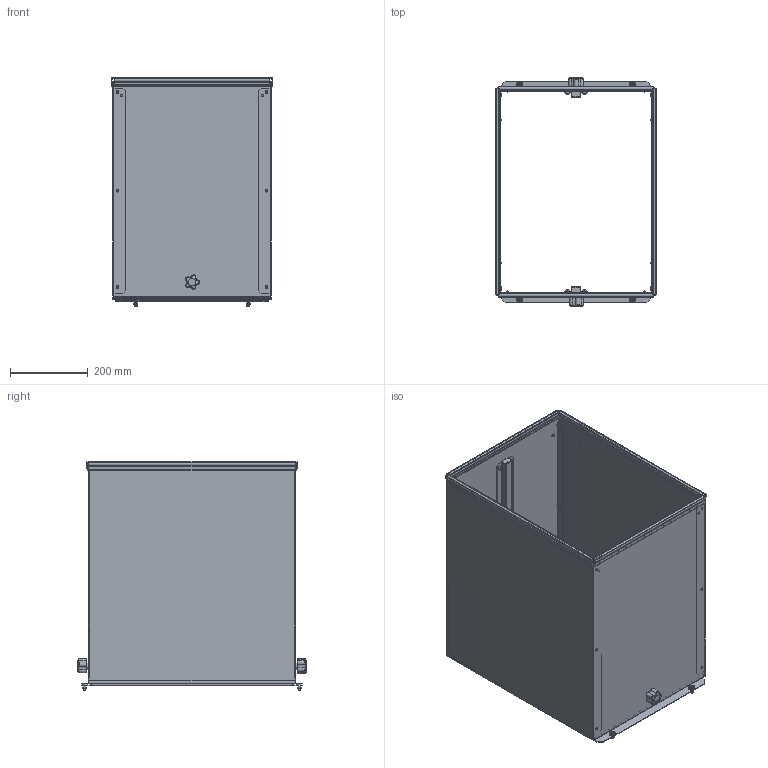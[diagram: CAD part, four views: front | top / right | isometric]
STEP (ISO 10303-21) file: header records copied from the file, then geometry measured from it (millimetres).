
FILE_DESCRIPTION( ( 'Unknown' ), '1' );
FILE_NAME( 'Q:/WEB DRAWINGS/STEP/CLCH202215.stp', 'Unknown', ( 'Unknown' ), ( 'Unknown' ), 'PSStep 15.0.49', 'Unknown', ' ' );
FILE_SCHEMA( ( 'AUTOMOTIVE_DESIGN { 1 0 10303 214 1 1 1 1 }' ) );
Length unit declared in the file: millimetre
Products named in the file (66): COM57022; NTS16752; NTS16752-oa21; NTS16752-oa22; NTS16752-oa23; NTS16752-oa24; NTS16752-oa25; STD218887; STD218887-oa26; STD218887-oa27; STD218887-oa28; STD218887-oa29; STD218887-oa30; COM57024; CLCH202215_TOP; SCS19548-oa31; SCS19548-oa32; SCS19548-oa33; SCS19548-oa34; SCS19548-oa35; SCS19548-oa36; SCS19548-oa37; SCS19548-oa38; SCS19548-oa39; SCS19548-oa40; SCS19548-oa41; SCS19548-oa42; COM57025; CLCH202215_BTM; PLG17662; PLG17662-oa3; PLG17662-oa4; PLG17662-oa5; PLG17662-oa6; PLG17662-oa7; PLG17662-oa8; PLG17662-oa9; SCS19548; SCS19548-oa10; SCS19548-oa11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
Assembly tree (94 placements, depth 4):
  Assem1
    NTS16699
    NTS16699-oa0
    NTS18139
    NTS18139-oa1
    KNB12004
    KNB12004-oa2
    GSK11219_15.75  x2
    GSK11219_20.875  x2
    GSK11215_15.75  x2
    GSK11215_20.875  x2
    FST07740  x4
    CLCH202215_BTM
      PLG17662
      PLG17662-oa3
      PLG17662-oa4
      PLG17662-oa5
      PLG17662-oa6
      PLG17662-oa7
      PLG17662-oa8
      PLG17662-oa9
      SCS19548
      SCS19548-oa10
      SCS19548-oa11
      SCS19548-oa12
      SCS19548-oa13
      SCS19548-oa14
      SCS19548-oa15
      SCS19548-oa16
      SCS19548-oa17
      SCS19548-oa18
      SCS19548-oa19
      SCS19548-oa20
      COM57023  x2
      COM57026  x2
      NTS17050  x12
      COM57022  x2
        NTS16752
        NTS16752-oa21
        NTS16752-oa22
        NTS16752-oa23
        NTS16752-oa24
        NTS16752-oa25
        STD218887
        STD218887-oa26
        STD218887-oa27
        STD218887-oa28
        STD218887-oa29
        STD218887-oa30
        COM57022
    CLCH202215_TOP
      SCS19548-oa31
      SCS19548-oa32
      SCS19548-oa33
      SCS19548-oa34
      SCS19548-oa35
      SCS19548-oa36
      SCS19548-oa37
      SCS19548-oa38
      SCS19548-oa39
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Bounding box: 415.86 x 588.85 x 586.58 mm (x, y, z)
Volume: 3965000.4 mm3; surface area: 4864643.2 mm2
Topology: 108 solids, 108 shells, 2896 faces, 7560 edges, 4938 vertices
Faces by surface type: plane 1318, cylinder 856, cone 600, bspline 82, torus 40
Full cylindrical faces by diameter (mm): 2.937 x96, 3.505 x72, 3.81 x8, 3.967 x12, 4.039 x24, 4.064 x24, 4.75 x24, 4.775 x44, 4.826 x12, 4.976 x2, 5.387 x28, 6.35 x52, 6.502 x12, 7.112 x24, 7.137 x2, 8.687 x8, 11.049 x2, 12.065 x4, 15.875 x4, 17.526 x2
Entity records: 89777 total; most frequent: CARTESIAN_POINT 30025, DIRECTION 8614, ORIENTED_EDGE 8178, EDGE_CURVE 4089, AXIS2_PLACEMENT_3D 3516, VERTEX_POINT 3003, EDGE_LOOP 2862, FACE_OUTER_BOUND 2339
